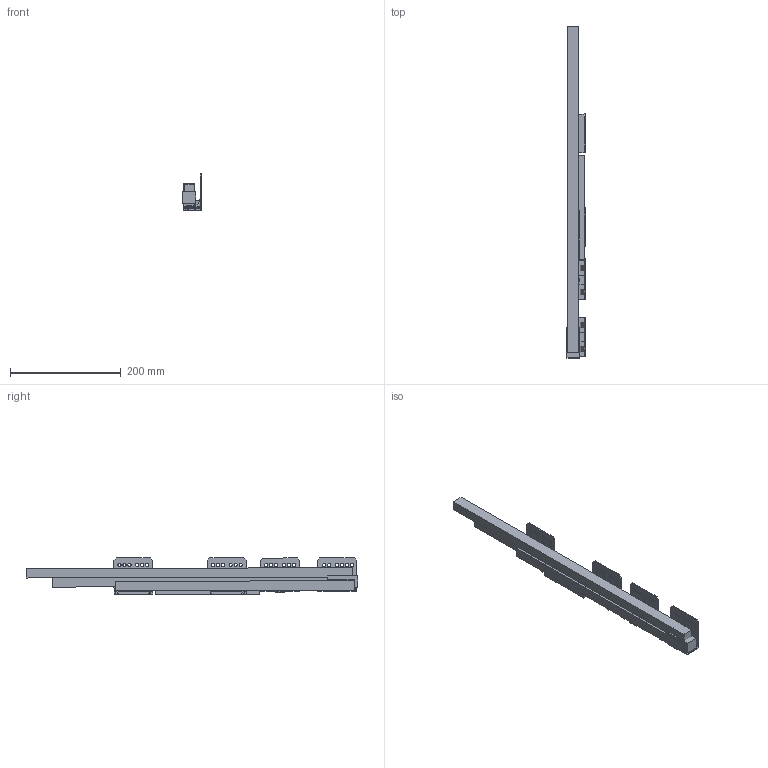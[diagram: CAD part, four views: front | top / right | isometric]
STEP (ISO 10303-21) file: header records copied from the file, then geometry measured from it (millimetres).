
FILE_DESCRIPTION (( 'STEP AP214' ), '1' );
FILE_NAME ('_IMOS Dynamic-XP VA 80kg NL600 RE.step', '2010-07-07T08:08:27', ( 'grass' ), ( '' ), 'SwSTEP 2.0', 'SolidWorks 2010', '' );
FILE_SCHEMA (( 'AUTOMOTIVE_DESIGN' ));
Length unit declared in the file: millimetre
Products named in the file (1): _IMOS Dynamic-XP VA 80kg NL600 RE
Bounding box: 32.79 x 599.89 x 66.67 mm (x, y, z)
Volume: 507080.9 mm3; surface area: 200883.1 mm2
Topology: 9 solids, 9 shells, 247 faces, 687 edges, 458 vertices
Faces by surface type: plane 167, cylinder 80
Entity records: 8167 total; most frequent: CARTESIAN_POINT 1393, ORIENTED_EDGE 1374, DIRECTION 1343, EDGE_CURVE 687, LINE 527, VECTOR 527, VERTEX_POINT 458, AXIS2_PLACEMENT_3D 408
